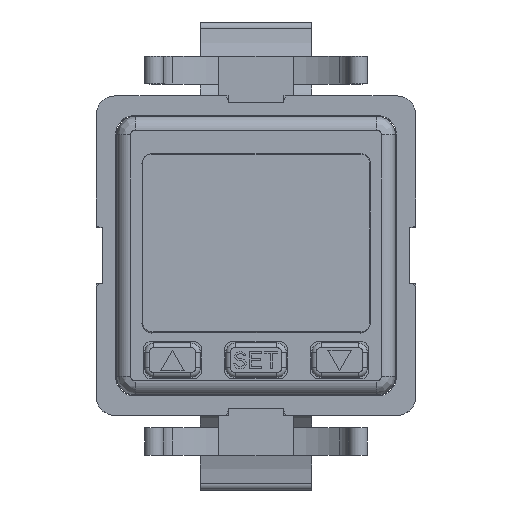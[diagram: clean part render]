
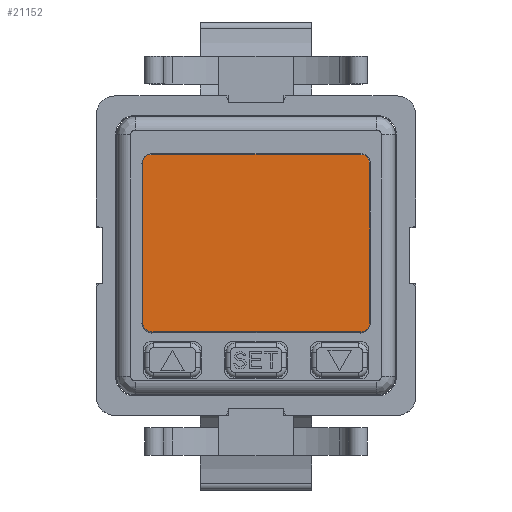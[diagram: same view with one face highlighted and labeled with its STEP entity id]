
A CAD part, top view. The second image highlights one B-rep face of the part: STEP entity #21152.
In plain terms, the highlighted planar face has unit normal (0, 0, 1).
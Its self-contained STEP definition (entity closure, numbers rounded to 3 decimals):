
#4364=CARTESIAN_POINT('',(11.25,10.992,24.97));
#4365=CARTESIAN_POINT('',(11.354,10.992,24.97));
#4366=CARTESIAN_POINT('',(11.546,10.963,24.97));
#4367=CARTESIAN_POINT('',(11.797,10.858,24.97));
#4368=CARTESIAN_POINT('',(12.016,10.695,24.97));
#4369=CARTESIAN_POINT('',(12.138,10.544,24.97));
#4370=CARTESIAN_POINT('',(12.191,10.454,24.97));
#4372=CARTESIAN_POINT('',(11.3,10.,24.97));
#4373=DIRECTION('',(0.,0.,1.));
#4374=DIRECTION('',(1.,0.,0.));
#4375=AXIS2_PLACEMENT_3D('',#4372,#4373,#4374);
#4377=DIRECTION('',(0.,1.,0.));
#4378=VECTOR('',#4377,17.2);
#4379=CARTESIAN_POINT('',(12.3,-7.2,24.97));
#4380=LINE('',#4379,#4378);
#4381=CARTESIAN_POINT('',(11.3,-7.2,24.97));
#4382=DIRECTION('',(0.,0.,1.));
#4383=DIRECTION('',(0.,-1.,0.));
#4384=AXIS2_PLACEMENT_3D('',#4381,#4382,#4383);
#4386=DIRECTION('',(1.,0.,0.));
#4387=VECTOR('',#4386,22.5);
#4388=CARTESIAN_POINT('',(-11.2,-8.2,24.97));
#4389=LINE('',#4388,#4387);
#4390=CARTESIAN_POINT('',(-11.2,-7.2,24.97));
#4391=DIRECTION('',(0.,0.,1.));
#4392=DIRECTION('',(-1.,0.,0.));
#4393=AXIS2_PLACEMENT_3D('',#4390,#4391,#4392);
#4395=DIRECTION('',(0.,-1.,0.));
#4396=VECTOR('',#4395,17.2);
#4397=CARTESIAN_POINT('',(-12.2,10.,24.97));
#4398=LINE('',#4397,#4396);
#4399=CARTESIAN_POINT('',(-11.2,10.,24.97));
#4400=DIRECTION('',(0.,0.,1.));
#4401=DIRECTION('',(-0.171,0.985,0.));
#4402=AXIS2_PLACEMENT_3D('',#4399,#4400,#4401);
#4404=CARTESIAN_POINT('',(-11.371,10.985,24.97));
#4405=CARTESIAN_POINT('',(-11.331,10.99,24.97));
#4406=CARTESIAN_POINT('',(-11.29,10.992,24.97));
#4407=CARTESIAN_POINT('',(-11.25,10.992,24.97));
#4409=DIRECTION('',(-1.,0.,0.));
#4410=VECTOR('',#4409,22.5);
#4411=CARTESIAN_POINT('',(11.25,10.992,24.97));
#4412=LINE('',#4411,#4410);
#11912=CARTESIAN_POINT('',(-12.2,10.,24.97));
#11913=CARTESIAN_POINT('',(-12.2,-7.2,24.97));
#11914=VERTEX_POINT('',#11912);
#11915=VERTEX_POINT('',#11913);
#11916=CARTESIAN_POINT('',(-11.2,-8.2,24.97));
#11917=VERTEX_POINT('',#11916);
#11918=CARTESIAN_POINT('',(11.3,-8.2,24.97));
#11919=VERTEX_POINT('',#11918);
#11920=CARTESIAN_POINT('',(12.3,-7.2,24.97));
#11921=VERTEX_POINT('',#11920);
#11922=CARTESIAN_POINT('',(12.3,10.,24.97));
#11923=VERTEX_POINT('',#11922);
#13160=VERTEX_POINT('',#4364);
#13161=VERTEX_POINT('',#4370);
#13162=CARTESIAN_POINT('',(-11.25,10.992,24.97));
#13163=VERTEX_POINT('',#13162);
#13164=VERTEX_POINT('',#4404);
#21127=CARTESIAN_POINT('',(0.05,2.6,24.97));
#21128=DIRECTION('',(0.,0.,1.));
#21129=DIRECTION('',(1.,0.,0.));
#21130=AXIS2_PLACEMENT_3D('',#21127,#21128,#21129);
#21131=PLANE('',#21130);
#21132=ORIENTED_EDGE('',*,*,#21115,.T.);
#21133=ORIENTED_EDGE('',*,*,#21073,.F.);
#21135=ORIENTED_EDGE('',*,*,#21134,.F.);
#21137=ORIENTED_EDGE('',*,*,#21136,.F.);
#21139=ORIENTED_EDGE('',*,*,#21138,.F.);
#21141=ORIENTED_EDGE('',*,*,#21140,.F.);
#21143=ORIENTED_EDGE('',*,*,#21142,.F.);
#21145=ORIENTED_EDGE('',*,*,#21144,.F.);
#21147=ORIENTED_EDGE('',*,*,#21146,.T.);
#21149=ORIENTED_EDGE('',*,*,#21148,.F.);
#21150=EDGE_LOOP('',(#21132,#21133,#21135,#21137,#21139,#21141,#21143,#21145,
#21147,#21149));
#21151=FACE_OUTER_BOUND('',#21150,.F.);
#21152=ADVANCED_FACE('',(#21151),#21131,.T.);
#4371=B_SPLINE_CURVE_WITH_KNOTS('',3,(#4364,#4365,#4366,#4367,#4368,#4369,
#4370),.UNSPECIFIED.,.F.,.F.,(4,1,1,1,4),(0.,0.25,0.5,0.75,1.),
.UNSPECIFIED.);
#4376=CIRCLE('',#4375,1.);
#4385=CIRCLE('',#4384,1.);
#4394=CIRCLE('',#4393,1.);
#4403=CIRCLE('',#4402,1.);
#4408=B_SPLINE_CURVE_WITH_KNOTS('',3,(#4404,#4405,#4406,#4407),.UNSPECIFIED.,
.F.,.F.,(4,4),(0.,1.),.UNSPECIFIED.);
#21073=EDGE_CURVE('',#11923,#13161,#4376,.T.);
#21115=EDGE_CURVE('',#13160,#13161,#4371,.T.);
#21134=EDGE_CURVE('',#11921,#11923,#4380,.T.);
#21136=EDGE_CURVE('',#11919,#11921,#4385,.T.);
#21138=EDGE_CURVE('',#11917,#11919,#4389,.T.);
#21140=EDGE_CURVE('',#11915,#11917,#4394,.T.);
#21142=EDGE_CURVE('',#11914,#11915,#4398,.T.);
#21144=EDGE_CURVE('',#13164,#11914,#4403,.T.);
#21146=EDGE_CURVE('',#13164,#13163,#4408,.T.);
#21148=EDGE_CURVE('',#13160,#13163,#4412,.T.);
